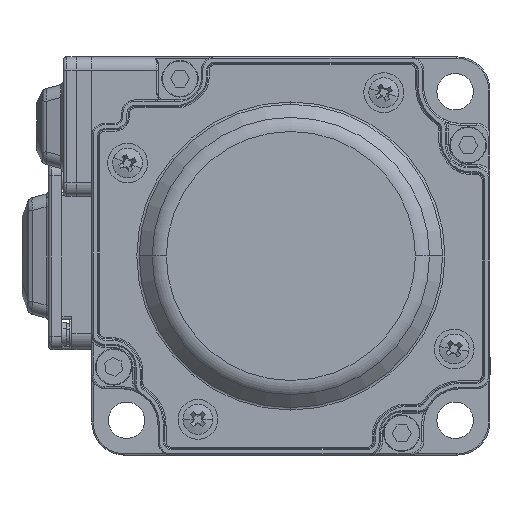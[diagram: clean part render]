
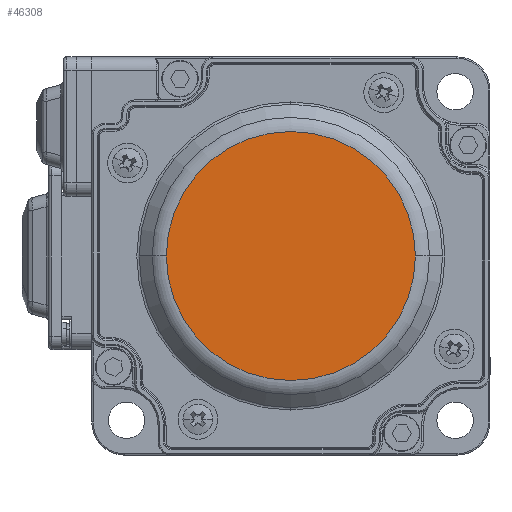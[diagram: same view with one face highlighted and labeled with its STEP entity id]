
A CAD part, left-side view. The second image highlights one B-rep face of the part: STEP entity #46308.
In plain terms, the highlighted planar face has unit normal (-1, 0, 0).
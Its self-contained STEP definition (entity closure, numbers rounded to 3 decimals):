
#3968 = DIRECTION ( 'NONE',  ( 0., 1., 0. ) ) ;
#5161 = CIRCLE ( 'NONE', #42632, 18.757 ) ;
#6427 = CARTESIAN_POINT ( 'NONE',  ( -105.1, -18.757, 0. ) ) ;
#6935 = ORIENTED_EDGE ( 'NONE', *, *, #36349, .T. ) ;
#7289 = CARTESIAN_POINT ( 'NONE',  ( -105.1, 0., 0. ) ) ;
#7411 = CARTESIAN_POINT ( 'NONE',  ( -105.1, 0., 0. ) ) ;
#8823 = CARTESIAN_POINT ( 'NONE',  ( -105.1, 20., 0. ) ) ;
#9940 = AXIS2_PLACEMENT_3D ( 'NONE', #7411, #21464, #28830 ) ;
#14319 = ORIENTED_EDGE ( 'NONE', *, *, #38664, .T. ) ;
#14555 = DIRECTION ( 'NONE',  ( -1., 0., 0. ) ) ;
#16805 = PLANE ( 'NONE',  #21007 ) ;
#21007 = AXIS2_PLACEMENT_3D ( 'NONE', #8823, #31170, #33976 ) ;
#21464 = DIRECTION ( 'NONE',  ( -1., 0., 0. ) ) ;
#28830 = DIRECTION ( 'NONE',  ( 0., 1., 0. ) ) ;
#30270 = FACE_OUTER_BOUND ( 'NONE', #43347, .T. ) ;
#31170 = DIRECTION ( 'NONE',  ( 1., 0., 0. ) ) ;
#31849 = VERTEX_POINT ( 'NONE', #45501 ) ;
#32463 = VERTEX_POINT ( 'NONE', #6427 ) ;
#33976 = DIRECTION ( 'NONE',  ( 0., 1., 0. ) ) ;
#36349 = EDGE_CURVE ( 'NONE', #32463, #31849, #5161, .T. ) ;
#38664 = EDGE_CURVE ( 'NONE', #31849, #32463, #40647, .T. ) ;
#40647 = CIRCLE ( 'NONE', #9940, 18.757 ) ;
#42632 = AXIS2_PLACEMENT_3D ( 'NONE', #7289, #14555, #3968 ) ;
#43347 = EDGE_LOOP ( 'NONE', ( #14319, #6935 ) ) ;
#45501 = CARTESIAN_POINT ( 'NONE',  ( -105.1, 18.757, 0. ) ) ;
#46308 = ADVANCED_FACE ( 'NONE', ( #30270 ), #16805, .F. ) ;
